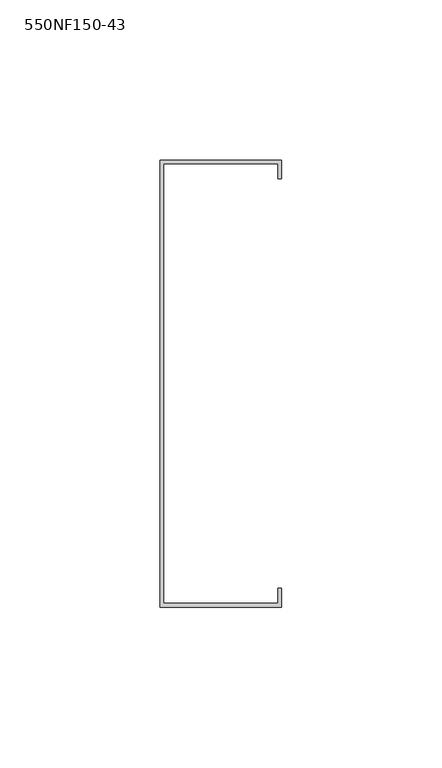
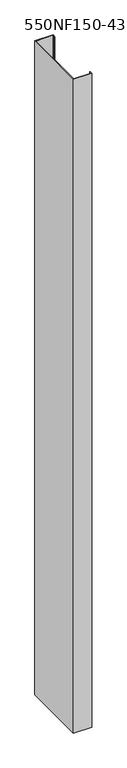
"""IFC4 building model written with IfcOpenShell, lengths in millimetres: column geometry, BIMSF-SSMA-S-Column : 550NF150-43."""

from ifc_helpers import new_model, si_unit, frame, origin, place, context, project, spatial, polyline, outline, extrude, source, transform, mapped, element, save


def column_550nf150_43_f62720cc(model_context):
    return source(origin(), model_context, "Body", "SweptSolid", [
        extrude(outline(polyline([(-11.9977877, -80.5871249), (-11.9977877, 59.1128751), (26.1022123, 59.1128751), (26.1022123, 53.1879908), (24.952528, 53.1879908), (24.952528, 57.9631908), (-10.8481035, 57.9631908), (-10.8481035, -79.4374407), (24.952528, -79.4374407), (24.952528, -74.6622407), (26.1022123, -74.6622407), (26.1022123, -80.5871249), (-11.9977877, -80.5871249)])), frame((0.0, 0.0, 5525.3929688), z_axis=(0.0, 0.0, 1.0), x_axis=(1.0, 0.0, 0.0)), (0.0, 0.0, 1.0), 1445.2332427),
    ])


if __name__ == "__main__":
    model = new_model("IFC4")
    model_context = context("Model", 3, world=origin())
    ifc_project = project(units=[si_unit("LENGTHUNIT", "METRE", prefix="MILLI")], contexts=[model_context])
    site = spatial("IfcSite", under=ifc_project)
    building = spatial("IfcBuilding", under=site)
    placement = place(None, origin())
    column_550nf150_43_shape = column_550nf150_43_f62720cc(model_context)
    element("IfcColumn", 1, ObjectType="BIMSF-SSMA-S-Column : 550NF150-43", at=placement, inside=building, context=model_context, shape_type="MappedRepresentation", body=[
        mapped(column_550nf150_43_shape, transform((0.0, 0.0, 0.0), x_axis=(1.0, 0.0, 0.0), y_axis=(0.0, 1.0, 0.0), z_axis=(0.0, 0.0, 1.0))),
    ])
    save(model, "model.ifc")
